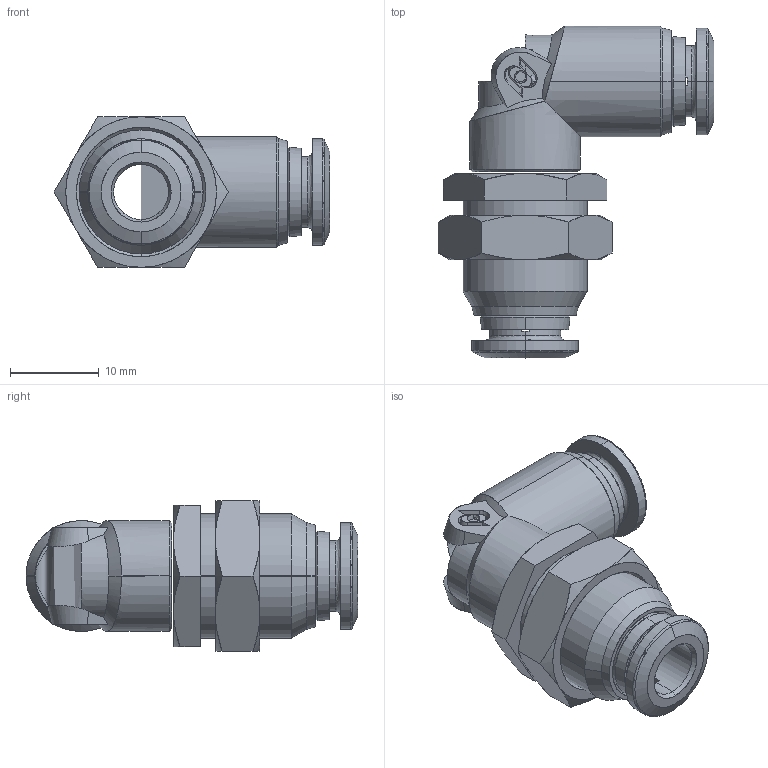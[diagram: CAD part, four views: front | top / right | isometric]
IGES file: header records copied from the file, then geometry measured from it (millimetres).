
Start section: SolidWorks IGES file using analytic representation for surfaces
Global section: file name: C:\Users\cad06\Desktop\Nuova cartella\40060V0004.IGS; native system: SolidWorks 2016; preprocessor: SolidWorks 2016; author: cad06; date: 160524.114320; units: millimetre
Bounding box: 31.11 x 37.45 x 17 mm (x, y, z)
Surface area: 3811.5 mm2 (no closed solid volume)
Topology: 0 solids, 0 shells, 162 faces, 2211 edges, 2210 vertices
Faces by surface type: revolution 92, bspline 70
